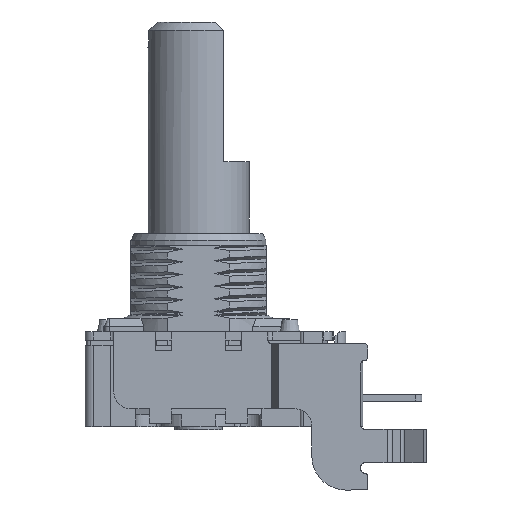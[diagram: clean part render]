
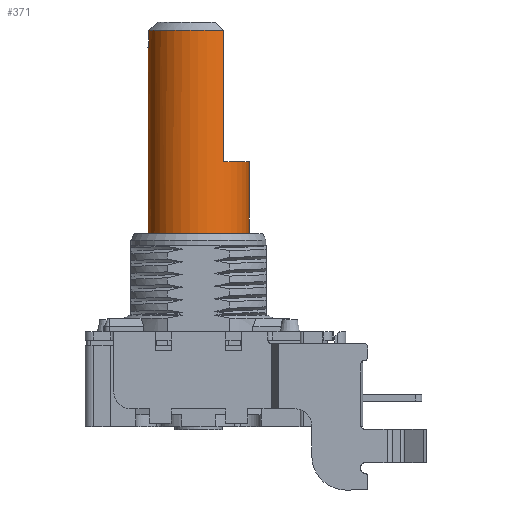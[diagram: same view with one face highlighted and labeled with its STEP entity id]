
A CAD part, left-side view. The second image highlights one B-rep face of the part: STEP entity #371.
In plain terms, the highlighted cylindrical face has radius 3 mm (diameter 6 mm), a full revolution.
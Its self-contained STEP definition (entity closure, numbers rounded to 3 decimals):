
#196=CARTESIAN_POINT('',(-3.,0.,6.15));
#197=VERTEX_POINT('',#196);
#198=CARTESIAN_POINT('',(0.,0.,6.15));
#199=DIRECTION('',(0.0,0.0,1.0));
#200=DIRECTION('',(-1.0,0.0,0.0));
#201=AXIS2_PLACEMENT_3D('',#198,#199,#200);
#202=CIRCLE('',#201,3.);
#203=EDGE_CURVE('',#197,#197,#202,.T.);
#225=CARTESIAN_POINT('',(0.667,2.925,18.3));
#226=VERTEX_POINT('',#225);
#251=CARTESIAN_POINT('',(2.598,-1.5,18.3));
#252=VERTEX_POINT('',#251);
#260=CARTESIAN_POINT('',(0.,0.,18.3));
#261=DIRECTION('',(0.0,0.0,1.0));
#262=DIRECTION('',(1.0,0.0,0.0));
#263=AXIS2_PLACEMENT_3D('',#260,#261,#262);
#264=CIRCLE('',#263,3.);
#265=EDGE_CURVE('',#252,#226,#264,.T.);
#301=CARTESIAN_POINT('',(0.,0.,18.8));
#302=DIRECTION('',(0.,0.,-1.0));
#303=DIRECTION('',(-1.0,0.0,0.0));
#304=AXIS2_PLACEMENT_3D('',#301,#302,#303);
#305=CYLINDRICAL_SURFACE('',#304,3.);
#306=ORIENTED_EDGE('',*,*,#203,.T.);
#307=EDGE_LOOP('',(#306));
#308=FACE_OUTER_BOUND('',#307,.T.);
#309=ORIENTED_EDGE('',*,*,#265,.F.);
#310=CARTESIAN_POINT('',(2.598,-1.5,10.55));
#311=VERTEX_POINT('',#310);
#312=CARTESIAN_POINT('',(2.598,-1.5,18.3));
#313=DIRECTION('',(0.0,0.0,-1.0));
#314=VECTOR('',#313,7.75);
#315=LINE('',#312,#314);
#316=EDGE_CURVE('',#252,#311,#315,.T.);
#317=ORIENTED_EDGE('',*,*,#316,.T.);
#318=CARTESIAN_POINT('',(-2.598,-1.5,10.55));
#319=VERTEX_POINT('',#318);
#320=CARTESIAN_POINT('',(0.,0.,10.55));
#321=DIRECTION('',(0.0,0.0,-1.0));
#322=DIRECTION('',(-1.0,0.0,0.0));
#323=AXIS2_PLACEMENT_3D('',#320,#321,#322);
#324=CIRCLE('',#323,3.);
#325=EDGE_CURVE('',#311,#319,#324,.T.);
#326=ORIENTED_EDGE('',*,*,#325,.T.);
#327=CARTESIAN_POINT('',(-2.598,-1.5,18.3));
#328=VERTEX_POINT('',#327);
#329=CARTESIAN_POINT('',(-2.598,-1.5,10.55));
#330=DIRECTION('',(0.0,0.0,1.0));
#331=VECTOR('',#330,7.75);
#332=LINE('',#329,#331);
#333=EDGE_CURVE('',#319,#328,#332,.T.);
#334=ORIENTED_EDGE('',*,*,#333,.T.);
#335=CARTESIAN_POINT('',(-0.667,2.925,18.3));
#336=VERTEX_POINT('',#335);
#337=CARTESIAN_POINT('',(0.,0.,18.3));
#338=DIRECTION('',(0.0,0.0,1.0));
#339=DIRECTION('',(-1.0,0.0,0.0));
#340=AXIS2_PLACEMENT_3D('',#337,#338,#339);
#341=CIRCLE('',#340,3.);
#342=EDGE_CURVE('',#336,#328,#341,.T.);
#343=ORIENTED_EDGE('',*,*,#342,.F.);
#344=CARTESIAN_POINT('',(-0.5,2.958,17.3));
#345=VERTEX_POINT('',#344);
#346=CARTESIAN_POINT('',(0.,0.,14.3));
#347=DIRECTION('',(0.986,0.,0.164));
#348=DIRECTION('',(-0.164,0.,0.986));
#349=AXIS2_PLACEMENT_3D('',#346,#347,#348);
#350=ELLIPSE('',#349,18.248,3.);
#351=EDGE_CURVE('',#345,#336,#350,.T.);
#352=ORIENTED_EDGE('',*,*,#351,.F.);
#353=CARTESIAN_POINT('',(0.5,2.958,17.3));
#354=VERTEX_POINT('',#353);
#355=CARTESIAN_POINT('',(0.,0.,17.3));
#356=DIRECTION('',(0.0,0.0,-1.0));
#357=DIRECTION('',(-1.0,0.0,0.0));
#358=AXIS2_PLACEMENT_3D('',#355,#356,#357);
#359=CIRCLE('',#358,3.);
#360=EDGE_CURVE('',#345,#354,#359,.T.);
#361=ORIENTED_EDGE('',*,*,#360,.T.);
#362=CARTESIAN_POINT('',(0.,0.,14.3));
#363=DIRECTION('',(-0.986,0.,0.164));
#364=DIRECTION('',(-0.164,0.,-0.986));
#365=AXIS2_PLACEMENT_3D('',#362,#363,#364);
#366=ELLIPSE('',#365,18.248,3.);
#367=EDGE_CURVE('',#226,#354,#366,.T.);
#368=ORIENTED_EDGE('',*,*,#367,.F.);
#369=EDGE_LOOP('',(#309,#317,#326,#334,#343,#352,#361,#368));
#370=FACE_BOUND('',#369,.T.);
#371=ADVANCED_FACE('',(#308,#370),#305,.T.);
